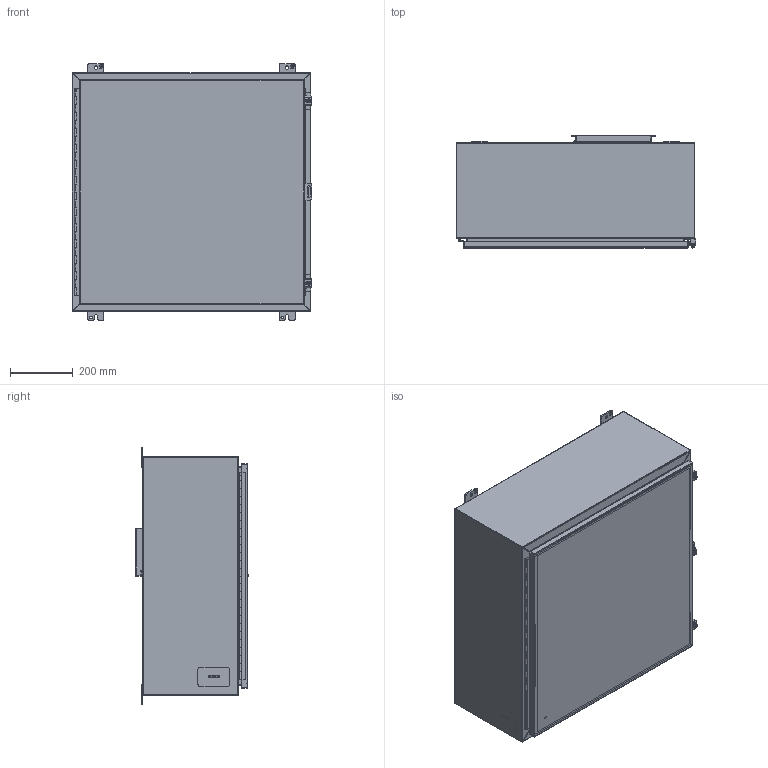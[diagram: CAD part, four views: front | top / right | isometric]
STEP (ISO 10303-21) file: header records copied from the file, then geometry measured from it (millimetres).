
FILE_DESCRIPTION(/* description */ ('Unknown'),/* implementation_level */ '2;1');
FILE_NAME(/* name */ '1418KK12LP',/* time_stamp */ '2026-02-20T16:33:27-05:00',/* author */ ('Unknown'),/* organization */ ('Unknown'),/* preprocessor_version */ 'ST-DEVELOPER v18.104',/* originating_system */ 'Solid Edge',/* authorisation */ 'Unknown');
FILE_SCHEMA (('AUTOMOTIVE_DESIGN {1 0 10303 214 3 1 1}'));
Length unit declared in the file: millimetre
Products named in the file (32): 1418KK12LP; STD26094; STD21878; COM42780; KIT90518; WAF25059; NTS166105; LAB30005; COM40153-1; KIT90256; NTS165305; NTS16535; COM71780-18; COM40153-2; HNG10620-26C; PNT11078; COM70219_oa_0; COM48486; FET07710; AKT90223; SPR20265; SCC19011; WAF25035; COM42667; BUL10020; QLB30109; PKT99; COM48514; HNG10620-26B; HNG10620-26P; QLB20254
Assembly tree (43 placements, depth 3):
  1418KK12LP
    STD26094  x4
    STD21878
    COM42780  x2
    KIT90518
      WAF25059
      NTS166105
      LAB30005
    COM40153-1
    KIT90256
      LAB30005
      NTS165305
      NTS16535
    COM71780-18
      COM40153-2
      HNG10620-26C
      COM71780-18
      STD21878
      PNT11078
      COM70219_oa_0
    COM48486
    FET07710  x4
    AKT90223  x2
      SPR20265
      SCC19011
      WAF25035
      COM42667
    BUL10020
    QLB30109
    PKT99
    COM48514  x2
    HNG10620-26B
    HNG10620-26P
    QLB20254
    PNT11078
Bounding box: 765.17 x 358.77 x 819.15 mm (x, y, z)
Volume: 4535706.9 mm3; surface area: 4908780.8 mm2
Topology: 37 solids, 38 shells, 1296 faces, 3347 edges, 2174 vertices
Faces by surface type: plane 854, cylinder 318, bspline 76, cone 26, torus 20, sphere 2
Full cylindrical faces by diameter (mm): 3.175 x1, 4.763 x1, 4.976 x1, 5.41 x2, 6.198 x2, 6.35 x3, 6.731 x2, 7.137 x2, 7.805 x1, 7.938 x4, 8.382 x4, 9.525 x4, 9.906 x2, 11.113 x4, 11.303 x1, 12.7 x2, 16.51 x4, 25.4 x1, 88.9 x1
Entity records: 33164 total; most frequent: CARTESIAN_POINT 9719, ORIENTED_EDGE 4770, DIRECTION 4334, EDGE_CURVE 2385, VERTEX_POINT 1565, LINE 1538, VECTOR 1538, AXIS2_PLACEMENT_3D 1398
